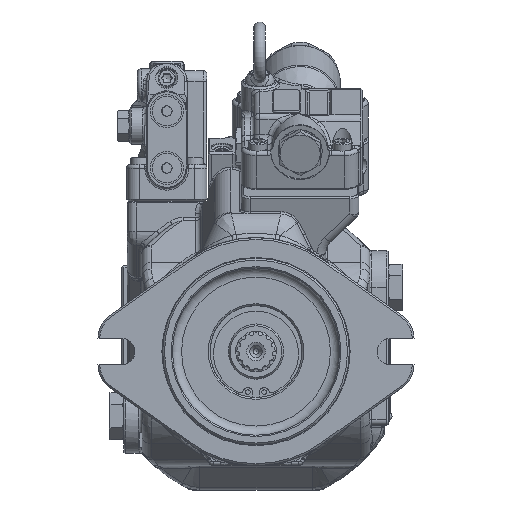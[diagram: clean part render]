
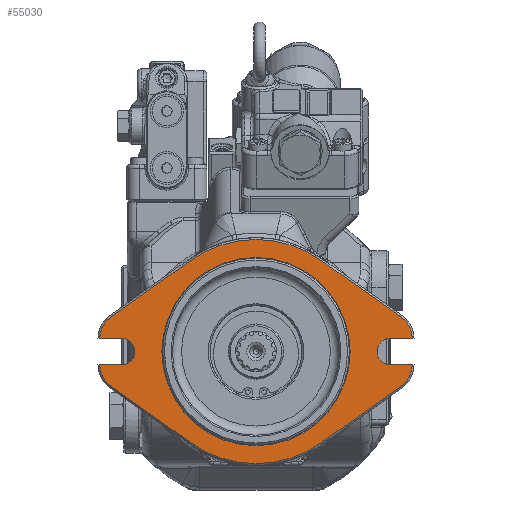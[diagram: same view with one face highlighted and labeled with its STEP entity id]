
A CAD part, top view. The second image highlights one B-rep face of the part: STEP entity #55030.
In plain terms, the highlighted planar face has unit normal (0, 0, 1).
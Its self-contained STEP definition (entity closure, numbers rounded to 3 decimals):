
#3688=FACE_BOUND('',#17405,.T.);
#5226=LINE('',#97642,#9177);
#5232=LINE('',#97654,#9183);
#5234=LINE('',#97661,#9185);
#5583=LINE('',#104368,#9534);
#5587=LINE('',#104377,#9538);
#5590=LINE('',#104386,#9541);
#5626=LINE('',#104583,#9577);
#5627=LINE('',#104586,#9578);
#5628=LINE('',#104588,#9579);
#5629=LINE('',#104591,#9580);
#5630=LINE('',#104593,#9581);
#5631=LINE('',#104595,#9582);
#9177=VECTOR('',#68127,10.);
#9183=VECTOR('',#68139,10.);
#9185=VECTOR('',#68147,10.);
#9534=VECTOR('',#69764,10.);
#9538=VECTOR('',#69774,10.);
#9541=VECTOR('',#69783,10.);
#9577=VECTOR('',#69925,10.);
#9578=VECTOR('',#69928,10.);
#9579=VECTOR('',#69929,10.);
#9580=VECTOR('',#69932,10.);
#9581=VECTOR('',#69933,10.);
#9582=VECTOR('',#69934,10.);
#13986=FACE_OUTER_BOUND('',#17404,.T.);
#17404=EDGE_LOOP('',(#44043,#44044,#44045,#44046,#44047,#44048,#44049,#44050,
#44051,#44052,#44053,#44054,#44055,#44056,#44057,#44058,#44059,#44060,#44061,
#44062));
#17405=EDGE_LOOP('',(#44063));
#20192=CIRCLE('',#58953,14.);
#20193=CIRCLE('',#58956,14.);
#20194=CIRCLE('',#58959,61.);
#20522=CIRCLE('',#59593,14.);
#20523=CIRCLE('',#59596,14.);
#20524=CIRCLE('',#59599,61.);
#20531=CIRCLE('',#59617,51.2);
#20538=CIRCLE('',#59652,7.15);
#20539=CIRCLE('',#59653,7.15);
#23567=VERTEX_POINT('',#97640);
#23568=VERTEX_POINT('',#97641);
#23569=VERTEX_POINT('',#97646);
#23570=VERTEX_POINT('',#97650);
#23571=VERTEX_POINT('',#97652);
#23572=VERTEX_POINT('',#97656);
#23573=VERTEX_POINT('',#97660);
#23574=VERTEX_POINT('',#97664);
#24154=VERTEX_POINT('',#104367);
#24155=VERTEX_POINT('',#104371);
#24156=VERTEX_POINT('',#104375);
#24157=VERTEX_POINT('',#104379);
#24158=VERTEX_POINT('',#104380);
#24159=VERTEX_POINT('',#104385);
#24168=VERTEX_POINT('',#104427);
#24193=VERTEX_POINT('',#104581);
#24194=VERTEX_POINT('',#104585);
#24195=VERTEX_POINT('',#104587);
#24196=VERTEX_POINT('',#104589);
#24197=VERTEX_POINT('',#104592);
#24198=VERTEX_POINT('',#104594);
#30148=EDGE_CURVE('',#23567,#23568,#5226,.T.);
#30151=EDGE_CURVE('',#23569,#23567,#20192,.T.);
#30155=EDGE_CURVE('',#23571,#23570,#5232,.T.);
#30156=EDGE_CURVE('',#23572,#23571,#20193,.T.);
#30158=EDGE_CURVE('',#23573,#23572,#5234,.T.);
#30160=EDGE_CURVE('',#23574,#23573,#20194,.T.);
#31150=EDGE_CURVE('',#24154,#23574,#5583,.T.);
#31152=EDGE_CURVE('',#24155,#24154,#20522,.T.);
#31155=EDGE_CURVE('',#24156,#24155,#5587,.T.);
#31156=EDGE_CURVE('',#24157,#24158,#20523,.T.);
#31159=EDGE_CURVE('',#24159,#24157,#5590,.T.);
#31161=EDGE_CURVE('',#23568,#24159,#20524,.T.);
#31180=EDGE_CURVE('',#24168,#24168,#20531,.T.);
#31224=EDGE_CURVE('',#24158,#24193,#5626,.T.);
#31225=EDGE_CURVE('',#24194,#23570,#5627,.T.);
#31226=EDGE_CURVE('',#24156,#24195,#5628,.T.);
#31227=EDGE_CURVE('',#24195,#24196,#20538,.T.);
#31228=EDGE_CURVE('',#24196,#24193,#5629,.T.);
#31229=EDGE_CURVE('',#24197,#23569,#5630,.T.);
#31230=EDGE_CURVE('',#24197,#24198,#5631,.T.);
#31231=EDGE_CURVE('',#24198,#24194,#20539,.T.);
#44043=ORIENTED_EDGE('',*,*,#31225,.T.);
#44044=ORIENTED_EDGE('',*,*,#30155,.F.);
#44045=ORIENTED_EDGE('',*,*,#30156,.F.);
#44046=ORIENTED_EDGE('',*,*,#30158,.F.);
#44047=ORIENTED_EDGE('',*,*,#30160,.F.);
#44048=ORIENTED_EDGE('',*,*,#31150,.F.);
#44049=ORIENTED_EDGE('',*,*,#31152,.F.);
#44050=ORIENTED_EDGE('',*,*,#31155,.F.);
#44051=ORIENTED_EDGE('',*,*,#31226,.T.);
#44052=ORIENTED_EDGE('',*,*,#31227,.T.);
#44053=ORIENTED_EDGE('',*,*,#31228,.T.);
#44054=ORIENTED_EDGE('',*,*,#31224,.F.);
#44055=ORIENTED_EDGE('',*,*,#31156,.F.);
#44056=ORIENTED_EDGE('',*,*,#31159,.F.);
#44057=ORIENTED_EDGE('',*,*,#31161,.F.);
#44058=ORIENTED_EDGE('',*,*,#30148,.F.);
#44059=ORIENTED_EDGE('',*,*,#30151,.F.);
#44060=ORIENTED_EDGE('',*,*,#31229,.F.);
#44061=ORIENTED_EDGE('',*,*,#31230,.T.);
#44062=ORIENTED_EDGE('',*,*,#31231,.T.);
#44063=ORIENTED_EDGE('',*,*,#31180,.F.);
#52396=PLANE('',#59651);
#55030=ADVANCED_FACE('',(#13986,#3688),#52396,.F.);
#58953=AXIS2_PLACEMENT_3D('',#97647,#68132,#68133);
#58956=AXIS2_PLACEMENT_3D('',#97657,#68142,#68143);
#58959=AXIS2_PLACEMENT_3D('',#97665,#68151,#68152);
#59593=AXIS2_PLACEMENT_3D('',#104372,#69768,#69769);
#59596=AXIS2_PLACEMENT_3D('',#104381,#69777,#69778);
#59599=AXIS2_PLACEMENT_3D('',#104389,#69787,#69788);
#59617=AXIS2_PLACEMENT_3D('',#104428,#69835,#69836);
#59651=AXIS2_PLACEMENT_3D('',#104584,#69926,#69927);
#59652=AXIS2_PLACEMENT_3D('',#104590,#69930,#69931);
#59653=AXIS2_PLACEMENT_3D('',#104596,#69935,#69936);
#68127=DIRECTION('',(-0.816,-0.579,0.));
#68132=DIRECTION('center_axis',(0.,0.,-1.));
#68133=DIRECTION('ref_axis',(0.888,-0.459,0.));
#68139=DIRECTION('',(0.,-1.,0.));
#68142=DIRECTION('center_axis',(0.,0.,-1.));
#68143=DIRECTION('ref_axis',(0.888,0.459,0.));
#68147=DIRECTION('',(0.816,-0.579,0.));
#68151=DIRECTION('center_axis',(0.,0.,-1.));
#68152=DIRECTION('ref_axis',(0.,1.,0.));
#69764=DIRECTION('',(0.816,0.579,0.));
#69768=DIRECTION('center_axis',(0.,0.,-1.));
#69769=DIRECTION('ref_axis',(-0.888,0.459,0.));
#69774=DIRECTION('',(0.,1.,0.));
#69777=DIRECTION('center_axis',(0.,0.,-1.));
#69778=DIRECTION('ref_axis',(-0.888,-0.459,0.));
#69783=DIRECTION('',(-0.816,0.579,0.));
#69787=DIRECTION('center_axis',(0.,0.,-1.));
#69788=DIRECTION('ref_axis',(0.,-1.,0.));
#69835=DIRECTION('center_axis',(0.,0.,1.));
#69836=DIRECTION('ref_axis',(0.,-1.,0.));
#69925=DIRECTION('',(0.,1.,0.));
#69926=DIRECTION('center_axis',(0.,0.,-1.));
#69927=DIRECTION('ref_axis',(0.,1.,0.));
#69928=DIRECTION('',(1.,0.,0.));
#69929=DIRECTION('',(1.,0.,0.));
#69930=DIRECTION('center_axis',(0.,0.,-1.));
#69931=DIRECTION('ref_axis',(0.,-1.,0.));
#69932=DIRECTION('',(-1.,0.,0.));
#69933=DIRECTION('',(0.,-1.,0.));
#69934=DIRECTION('',(-1.,0.,0.));
#69935=DIRECTION('center_axis',(0.,0.,-1.));
#69936=DIRECTION('ref_axis',(0.,-1.,0.));
#97640=CARTESIAN_POINT('',(-67.724,104.517,86.505));
#97641=CARTESIAN_POINT('',(-111.526,73.437,86.505));
#97642=CARTESIAN_POINT('',(-83.308,93.459,86.505));
#97646=CARTESIAN_POINT('',(-61.826,115.934,86.505));
#97647=CARTESIAN_POINT('Origin',(-75.826,115.934,86.505));
#97650=CARTESIAN_POINT('',(-61.826,130.335,86.505));
#97652=CARTESIAN_POINT('',(-61.826,130.436,86.505));
#97654=CARTESIAN_POINT('',(-61.826,179.226,86.505));
#97656=CARTESIAN_POINT('',(-67.724,141.854,86.505));
#97657=CARTESIAN_POINT('Origin',(-75.826,130.436,86.505));
#97660=CARTESIAN_POINT('',(-111.526,172.934,86.505));
#97661=CARTESIAN_POINT('',(-127.214,184.065,86.505));
#97664=CARTESIAN_POINT('',(-182.125,172.934,86.505));
#97665=CARTESIAN_POINT('Origin',(-146.826,123.185,86.505));
#104367=CARTESIAN_POINT('',(-225.927,141.854,86.505));
#104368=CARTESIAN_POINT('',(-153.907,192.956,86.505));
#104371=CARTESIAN_POINT('',(-231.826,130.436,86.505));
#104372=CARTESIAN_POINT('Origin',(-217.826,130.436,86.505));
#104375=CARTESIAN_POINT('',(-231.826,130.335,86.505));
#104377=CARTESIAN_POINT('',(-231.826,186.726,86.505));
#104379=CARTESIAN_POINT('',(-225.927,104.517,86.505));
#104380=CARTESIAN_POINT('',(-231.826,115.934,86.505));
#104381=CARTESIAN_POINT('Origin',(-217.826,115.934,86.505));
#104385=CARTESIAN_POINT('',(-182.125,73.437,86.505));
#104386=CARTESIAN_POINT('',(-222.874,102.35,86.505));
#104389=CARTESIAN_POINT('Origin',(-146.826,123.185,86.505));
#104427=CARTESIAN_POINT('',(-146.826,174.385,86.505));
#104428=CARTESIAN_POINT('Origin',(-146.826,123.185,86.505));
#104581=CARTESIAN_POINT('',(-231.826,116.035,86.505));
#104583=CARTESIAN_POINT('',(-231.826,186.726,86.505));
#104584=CARTESIAN_POINT('Origin',(-146.826,213.767,86.505));
#104585=CARTESIAN_POINT('',(-73.826,130.335,86.505));
#104586=CARTESIAN_POINT('',(-110.326,130.335,86.505));
#104587=CARTESIAN_POINT('',(-219.826,130.335,86.505));
#104588=CARTESIAN_POINT('',(-183.326,130.335,86.505));
#104589=CARTESIAN_POINT('',(-219.826,116.035,86.505));
#104590=CARTESIAN_POINT('Origin',(-219.826,123.185,86.505));
#104591=CARTESIAN_POINT('',(-201.459,116.035,86.505));
#104592=CARTESIAN_POINT('',(-61.826,116.035,86.505));
#104593=CARTESIAN_POINT('',(-61.826,179.226,86.505));
#104594=CARTESIAN_POINT('',(-73.826,116.035,86.505));
#104595=CARTESIAN_POINT('',(-92.193,116.035,86.505));
#104596=CARTESIAN_POINT('Origin',(-73.826,123.185,86.505));
